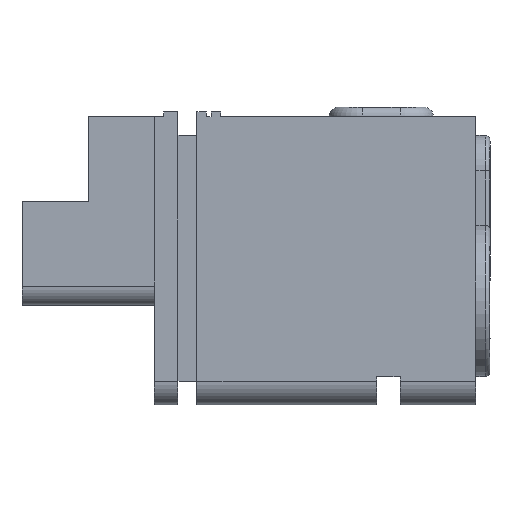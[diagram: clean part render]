
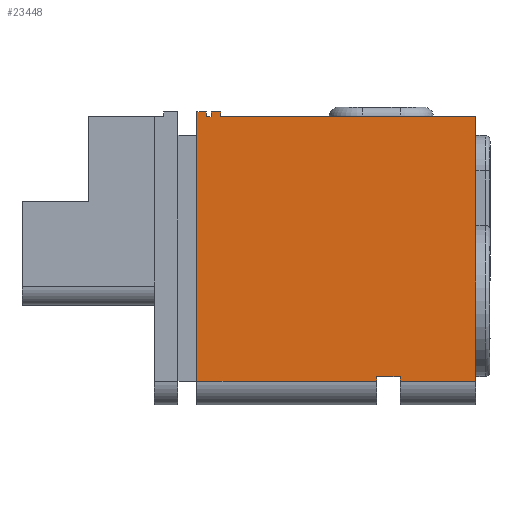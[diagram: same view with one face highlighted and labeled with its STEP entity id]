
A CAD part, left-side view. The second image highlights one B-rep face of the part: STEP entity #23448.
In plain terms, the highlighted planar face has unit normal (-1, 0, 0).
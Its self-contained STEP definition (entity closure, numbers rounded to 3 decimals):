
#3059 = VERTEX_POINT ( 'NONE', #19139 ) ;
#3064 = VERTEX_POINT ( 'NONE', #19144 ) ;
#3066 = VERTEX_POINT ( 'NONE', #19146 ) ;
#3067 = VERTEX_POINT ( 'NONE', #19147 ) ;
#3072 = VERTEX_POINT ( 'NONE', #19152 ) ;
#3083 = VERTEX_POINT ( 'NONE', #19163 ) ;
#3099 = VERTEX_POINT ( 'NONE', #19179 ) ;
#3101 = VERTEX_POINT ( 'NONE', #19181 ) ;
#3102 = VERTEX_POINT ( 'NONE', #19182 ) ;
#3105 = VERTEX_POINT ( 'NONE', #19185 ) ;
#3106 = VERTEX_POINT ( 'NONE', #19186 ) ;
#3107 = VERTEX_POINT ( 'NONE', #19187 ) ;
#3627 = ORIENTED_EDGE ( 'NONE', *, *, #22038, .F. ) ;
#3628 = ORIENTED_EDGE ( 'NONE', *, *, #22024, .F. ) ;
#3629 = ORIENTED_EDGE ( 'NONE', *, *, #22037, .T. ) ;
#3630 = ORIENTED_EDGE ( 'NONE', *, *, #22039, .F. ) ;
#3631 = ORIENTED_EDGE ( 'NONE', *, *, #22032, .T. ) ;
#3632 = ORIENTED_EDGE ( 'NONE', *, *, #22040, .F. ) ;
#3633 = ORIENTED_EDGE ( 'NONE', *, *, #22042, .T. ) ;
#3634 = ORIENTED_EDGE ( 'NONE', *, *, #22041, .F. ) ;
#3635 = ORIENTED_EDGE ( 'NONE', *, *, #22043, .T. ) ;
#3636 = ORIENTED_EDGE ( 'NONE', *, *, #22044, .F. ) ;
#3637 = ORIENTED_EDGE ( 'NONE', *, *, #22462, .F. ) ;
#3638 = ORIENTED_EDGE ( 'NONE', *, *, #22045, .T. ) ;
#3639 = ORIENTED_EDGE ( 'NONE', *, *, #22047, .F. ) ;
#3640 = ORIENTED_EDGE ( 'NONE', *, *, #22046, .F. ) ;
#8993 = LINE ( 'NONE', #8994, #9151 ) ;
#8994 = CARTESIAN_POINT ( 'NONE',  ( 0., 0., 31. ) ) ;
#8995 = DIRECTION ( 'NONE',  ( 0., -1., 0. ) ) ;
#9017 = LINE ( 'NONE', #9018, #9161 ) ;
#9018 = CARTESIAN_POINT ( 'NONE',  ( 0., 0., 2.5 ) ) ;
#9019 = DIRECTION ( 'NONE',  ( 0., -1., 0. ) ) ;
#9032 = LINE ( 'NONE', #9033, #9164 ) ;
#9033 = CARTESIAN_POINT ( 'NONE',  ( 0., -5.5, 30.5 ) ) ;
#9034 = DIRECTION ( 'NONE',  ( 0., 0., 1. ) ) ;
#9035 = LINE ( 'NONE', #9036, #9165 ) ;
#9036 = CARTESIAN_POINT ( 'NONE',  ( 0., -5.5, 30.5 ) ) ;
#9037 = DIRECTION ( 'NONE',  ( 0., -1., 0. ) ) ;
#9038 = LINE ( 'NONE', #9039, #9166 ) ;
#9039 = CARTESIAN_POINT ( 'NONE',  ( 0., -4.5, 2.5 ) ) ;
#9040 = DIRECTION ( 'NONE',  ( 0., 0., 1. ) ) ;
#9041 = LINE ( 'NONE', #9042, #9167 ) ;
#9042 = CARTESIAN_POINT ( 'NONE',  ( 0., -23.5, 3. ) ) ;
#9043 = DIRECTION ( 'NONE',  ( 0., 0., -1. ) ) ;
#9044 = LINE ( 'NONE', #9045, #9168 ) ;
#9045 = CARTESIAN_POINT ( 'NONE',  ( 0., -23.5, 3. ) ) ;
#9046 = DIRECTION ( 'NONE',  ( 0., 1., 0. ) ) ;
#9047 = LINE ( 'NONE', #9048, #9169 ) ;
#9048 = CARTESIAN_POINT ( 'NONE',  ( 0., -26., 3. ) ) ;
#9049 = DIRECTION ( 'NONE',  ( 0., 0., -1. ) ) ;
#9050 = LINE ( 'NONE', #9051, #9170 ) ;
#9051 = CARTESIAN_POINT ( 'NONE',  ( 0., 0., 2.5 ) ) ;
#9052 = DIRECTION ( 'NONE',  ( 0., -1., 0. ) ) ;
#9053 = LINE ( 'NONE', #9054, #9171 ) ;
#9054 = CARTESIAN_POINT ( 'NONE',  ( 0., -34., 31. ) ) ;
#9055 = DIRECTION ( 'NONE',  ( 0., 0., -1. ) ) ;
#9056 = LINE ( 'NONE', #9057, #9172 ) ;
#9057 = CARTESIAN_POINT ( 'NONE',  ( 0., -7., 31. ) ) ;
#9058 = DIRECTION ( 'NONE',  ( 0., 0., 1. ) ) ;
#9059 = LINE ( 'NONE', #9060, #9173 ) ;
#9060 = CARTESIAN_POINT ( 'NONE',  ( 0., 0., 31. ) ) ;
#9061 = DIRECTION ( 'NONE',  ( 0., -1., 0. ) ) ;
#9062 = LINE ( 'NONE', #9063, #9174 ) ;
#9063 = CARTESIAN_POINT ( 'NONE',  ( 0., -6., 30.5 ) ) ;
#9064 = DIRECTION ( 'NONE',  ( 0., 0., 1. ) ) ;
#9151 = VECTOR ( 'NONE', #8995, 1000. ) ;
#9161 = VECTOR ( 'NONE', #9019, 1000. ) ;
#9164 = VECTOR ( 'NONE', #9034, 1000. ) ;
#9165 = VECTOR ( 'NONE', #9037, 1000. ) ;
#9166 = VECTOR ( 'NONE', #9040, 1000. ) ;
#9167 = VECTOR ( 'NONE', #9043, 1000. ) ;
#9168 = VECTOR ( 'NONE', #9046, 1000. ) ;
#9169 = VECTOR ( 'NONE', #9049, 1000. ) ;
#9170 = VECTOR ( 'NONE', #9052, 1000. ) ;
#9171 = VECTOR ( 'NONE', #9055, 1000. ) ;
#9172 = VECTOR ( 'NONE', #9058, 1000. ) ;
#9173 = VECTOR ( 'NONE', #9061, 1000. ) ;
#9174 = VECTOR ( 'NONE', #9064, 1000. ) ;
#9550 = VECTOR ( 'NONE', #12047, 1000. ) ;
#11283 = VERTEX_POINT ( 'NONE', #19758 ) ;
#11298 = VERTEX_POINT ( 'NONE', #19770 ) ;
#11721 = EDGE_LOOP ( 'NONE', ( #3627, #3629, #3628, #3630, #3631, #3632, #3634, #3633, #3635, #3636, #3637, #3638, #3640, #3639 ) ) ;
#12045 = LINE ( 'NONE', #12046, #9550 ) ;
#12046 = CARTESIAN_POINT ( 'NONE',  ( 0., 0., 30.5 ) ) ;
#12047 = DIRECTION ( 'NONE',  ( 0., -1., 0. ) ) ;
#17388 = FACE_OUTER_BOUND ( 'NONE', #11721, .T. ) ;
#17393 = AXIS2_PLACEMENT_3D ( 'NONE', #18460, #18461, #18462 ) ;
#18459 = PLANE ( 'NONE',  #17393 ) ;
#18460 = CARTESIAN_POINT ( 'NONE',  ( 0., 0., 31. ) ) ;
#18461 = DIRECTION ( 'NONE',  ( 1., 0., 0. ) ) ;
#18462 = DIRECTION ( 'NONE',  ( 0., 1., 0. ) ) ;
#19139 = CARTESIAN_POINT ( 'NONE',  ( 0., -6., 31. ) ) ;
#19144 = CARTESIAN_POINT ( 'NONE',  ( 0., -7., 31. ) ) ;
#19146 = CARTESIAN_POINT ( 'NONE',  ( 0., -26., 3. ) ) ;
#19147 = CARTESIAN_POINT ( 'NONE',  ( 0., -34., 2.5 ) ) ;
#19152 = CARTESIAN_POINT ( 'NONE',  ( 0., -26., 2.5 ) ) ;
#19163 = CARTESIAN_POINT ( 'NONE',  ( 0., -5.5, 31. ) ) ;
#19179 = CARTESIAN_POINT ( 'NONE',  ( 0., -4.5, 31. ) ) ;
#19181 = CARTESIAN_POINT ( 'NONE',  ( 0., -4.5, 2.5 ) ) ;
#19182 = CARTESIAN_POINT ( 'NONE',  ( 0., -23.5, 2.5 ) ) ;
#19185 = CARTESIAN_POINT ( 'NONE',  ( 0., -5.5, 30.5 ) ) ;
#19186 = CARTESIAN_POINT ( 'NONE',  ( 0., -6., 30.5 ) ) ;
#19187 = CARTESIAN_POINT ( 'NONE',  ( 0., -23.5, 3. ) ) ;
#19758 = CARTESIAN_POINT ( 'NONE',  ( 0., -7., 30.5 ) ) ;
#19770 = CARTESIAN_POINT ( 'NONE',  ( 0., -34., 30.5 ) ) ;
#22024 = EDGE_CURVE ( 'NONE', #3099, #3083, #8993, .T. ) ;
#22032 = EDGE_CURVE ( 'NONE', #3101, #3102, #9017, .T. ) ;
#22037 = EDGE_CURVE ( 'NONE', #3105, #3083, #9032, .T. ) ;
#22038 = EDGE_CURVE ( 'NONE', #3105, #3106, #9035, .T. ) ;
#22039 = EDGE_CURVE ( 'NONE', #3101, #3099, #9038, .T. ) ;
#22040 = EDGE_CURVE ( 'NONE', #3107, #3102, #9041, .T. ) ;
#22041 = EDGE_CURVE ( 'NONE', #3066, #3107, #9044, .T. ) ;
#22042 = EDGE_CURVE ( 'NONE', #3066, #3072, #9047, .T. ) ;
#22043 = EDGE_CURVE ( 'NONE', #3072, #3067, #9050, .T. ) ;
#22044 = EDGE_CURVE ( 'NONE', #11298, #3067, #9053, .T. ) ;
#22045 = EDGE_CURVE ( 'NONE', #11283, #3064, #9056, .T. ) ;
#22046 = EDGE_CURVE ( 'NONE', #3059, #3064, #9059, .T. ) ;
#22047 = EDGE_CURVE ( 'NONE', #3106, #3059, #9062, .T. ) ;
#22462 = EDGE_CURVE ( 'NONE', #11283, #11298, #12045, .T. ) ;
#23448 = ADVANCED_FACE ( 'NONE', ( #17388 ), #18459, .F. ) ;
